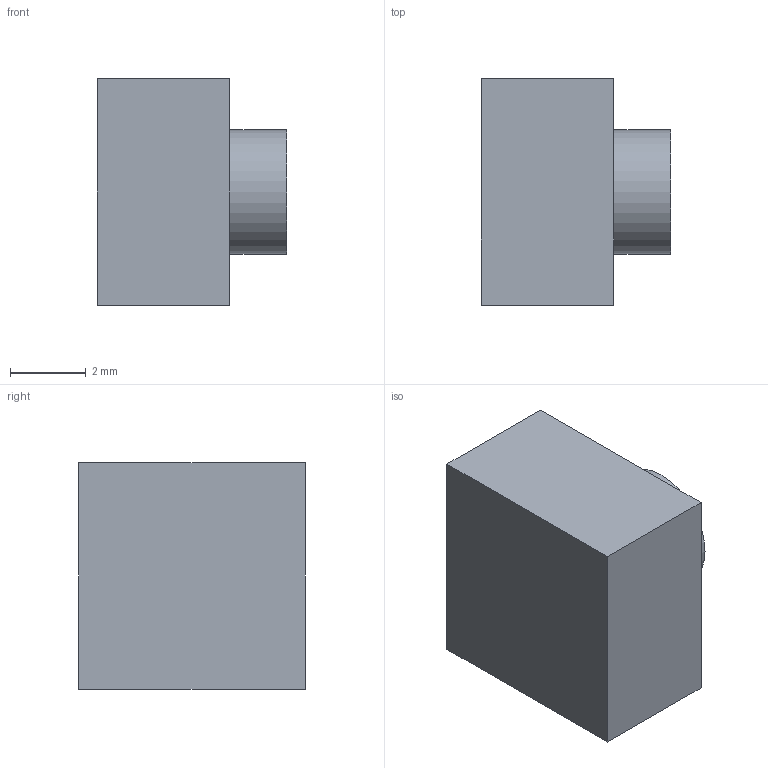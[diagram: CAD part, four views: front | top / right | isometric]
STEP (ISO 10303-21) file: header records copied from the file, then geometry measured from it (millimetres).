
FILE_DESCRIPTION(/* description */ (''),/* implementation_level */ '2;1');
FILE_NAME(/* name */ 'REF_05_Volume_Down_switch_NOMINAL.step',/* time_stamp */ '2026-09-16T19:15:04-07:00',/* author */ (''),/* organization */ (''),/* preprocessor_version */ 'ST-DEVELOPER v20.1',/* originating_system */ 'Autodesk Translation Framework v15.8.0.0',/* authorisation */ '');
FILE_SCHEMA (('AUTOMOTIVE_DESIGN { 1 0 10303 214 3 1 1 }'));
Length unit declared in the file: centimetre
Products named in the file (1): 2026-09-16-19-15-04-555
Bounding box: 5 x 6 x 6 mm (x, y, z)
Volume: 138.8 mm3; surface area: 171.6 mm2
Topology: 1 solids, 1 shells, 8 faces, 15 edges, 10 vertices
Faces by surface type: plane 7, cylinder 1
Full cylindrical faces by diameter (mm): 3.3 x1
Entity records: 241 total; most frequent: DIRECTION 35, CARTESIAN_POINT 34, ORIENTED_EDGE 30, EDGE_CURVE 15, LINE 13, VECTOR 13, AXIS2_PLACEMENT_3D 11, VERTEX_POINT 10
